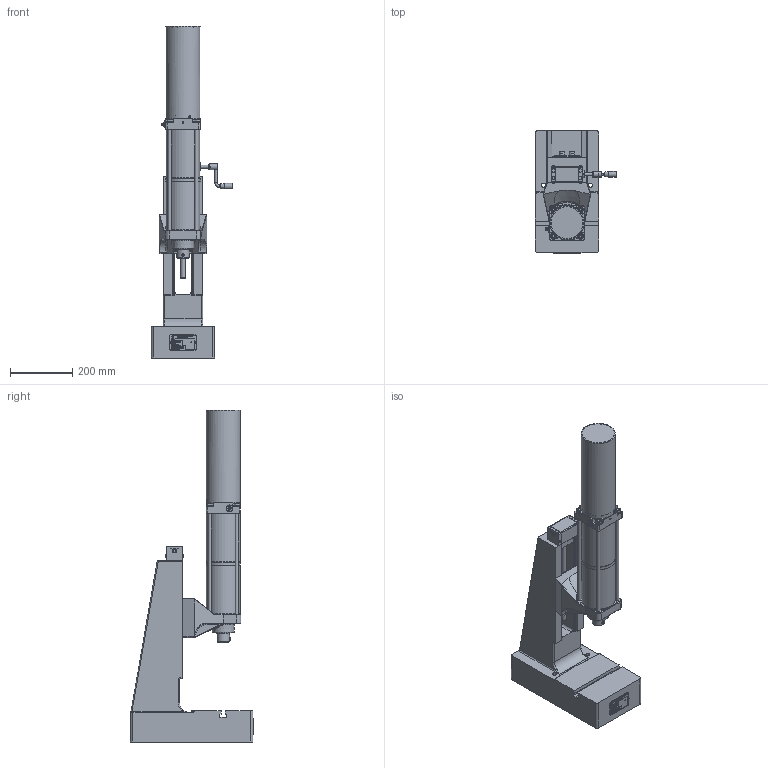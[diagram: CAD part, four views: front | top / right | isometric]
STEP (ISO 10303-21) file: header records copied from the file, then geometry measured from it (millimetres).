
FILE_DESCRIPTION(/* description */ ('Bausatz Ständer T4N HV-OST'),/* implementation_level */ '2;1');
FILE_NAME(/* name */ 'B:\02_CAD_oeffentlich\CAD_3D_oeffentlich_step\Druckluftpresse\DRP_0850_120_130.stp',/* time_stamp */ '2017-08-22T07:25:31+02:00',/* author */ ('Finsterle'),/* organization */ (''),/* preprocessor_version */ 'ST-DEVELOPER v16.1',/* originating_system */ 'Autodesk Inventor 2016',/* authorisation */ '');
FILE_SCHEMA (('AUTOMOTIVE_DESIGN { 1 0 10303 214 3 1 1 }'));
Products named in the file (5): ENG-000753-1_V; ENG-001025_V; HBF-000760; ENG-000755; HBF-001039_V
Assembly tree (5 placements, depth 2):
  HBF-001039_V
    ENG-000753-1_V
    ENG-001025_V
    HBF-000760
    ENG-000755  x2
Bounding box: 259.79 x 393.8 x 1062.64 mm (x, y, z)
Volume: 11921803.7 mm3; surface area: 1641177.6 mm2
Topology: 6 solids, 16 shells, 7543 faces, 20455 edges, 13373 vertices
Faces by surface type: plane 4574, bspline 2104, cylinder 465, cone 224, torus 101, sphere 75
Full cylindrical faces by diameter (mm): 1 x1, 2 x1, 2.4 x3, 2.459 x2, 3 x7, 3.242 x7, 3.5 x2, 3.65 x4, 4 x6, 4.134 x1, 4.5 x4, 4.917 x6, 5 x3, 6.2 x4, 6.5 x2, 6.647 x1, 8 x7, 8.4 x1, 8.5 x1, 10 x7, 10.02 x1, 10.106 x2, 10.5 x12, 11.8 x2, 12 x7, 13 x8, 13.5 x4, 14 x3, 14.376 x2, 14.95 x3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
Entity records: 256464 total; most frequent: CARTESIAN_POINT 75560, ORIENTED_EDGE 39762, DIRECTION 27698, EDGE_CURVE 19868, LINE 13922, VECTOR 13922, VERTEX_POINT 13244, EDGE_LOOP 8490
